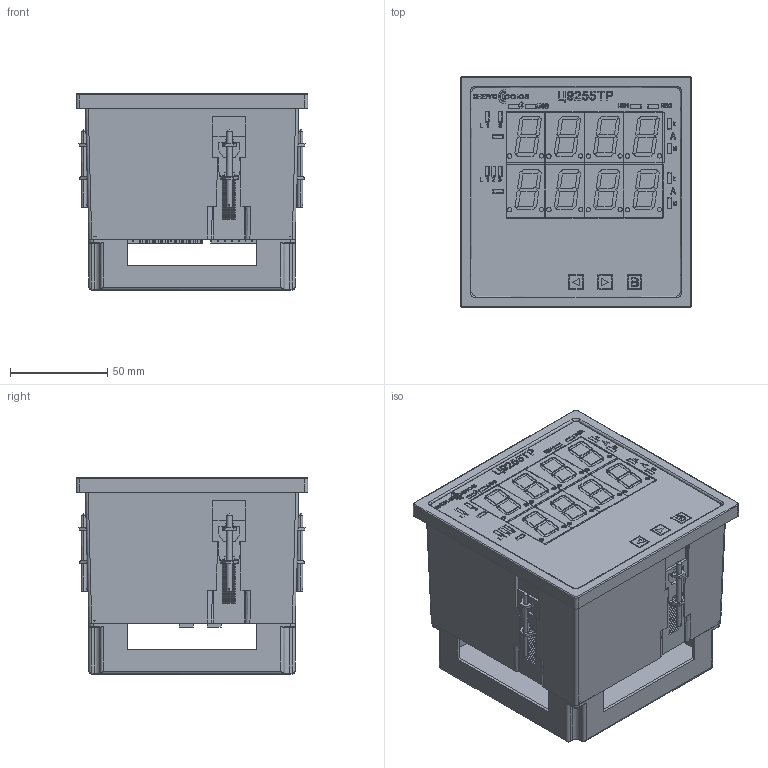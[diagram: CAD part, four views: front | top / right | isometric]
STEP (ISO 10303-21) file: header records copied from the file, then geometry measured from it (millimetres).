
FILE_DESCRIPTION (( 'STEP AP214' ), '1' );
FILE_NAME ('ñ9255tr_2c_120x120x103.STEP', '2025-10-20T08:02:41', ( '' ), ( '' ), 'SwSTEP 2.0', 'SolidWorks 2021', '' );
FILE_SCHEMA (( 'AUTOMOTIVE_DESIGN' ));
Length unit declared in the file: millimetre
Products named in the file (60): Êîïèÿ 15EDGRC-3.5-01P^15EDGRC-3.5-04P; 櫻蠉錪6^DG271R-5.0-2-x; Êîïèÿ (4) Êîïèÿ indicator-FYS-8011^c9255tr-2c_step; Êîïèÿ Êîïèÿ (2) orange-led-with-border^c9255tr-2c_step; body_elc_120x120x103_step; red-led-with-border_step; Êîïèÿ (8) Êîïèÿ indicator-FYS-8011^c9255tr-2c_step; green-led-5_step; Êîïèÿ mark-FYS-8011^Êîïèÿ (4) Êîïèÿ indicator-FYS-8011_c9255tr-2c_step; Êîïèÿ (3) Êîïèÿ indicator-FYS-8011^c9255tr-2c_step; no-color-led-5; 櫻蠉錪5^DG271R-5.0-4-x_step; Êîïèÿ Êîïèÿ ïåðåäíÿÿ_ïàíåëü^c9255tr-2c_step; ñêîáà-2; Êîïèÿ no-color-led-5^c9255tr-2c; ñ9255tr_2c_120x120x103; Êîïèÿ (6) Êîïèÿ indicator-FYS-8011^c9255tr-2c_step; Êîïèÿ mark-FYS-8011^Êîïèÿ (3) Êîïèÿ indicator-FYS-8011_c9255tr-2c_step; Êîïèÿ Ñáîðêà ñêîáà ÖÔ9285^c9255tr-2c_step; 15EDGRC-3.5-04P; 櫻蠉錪6^DG271R-5.0-4-x_step; 櫻蠉錪2^DG271R-5.0-2-x; indicator-FYS-8011; Êîïèÿ 15EDGRC-3.5-01P^Êîïèÿ 15EDGRC-3.5-06P_c9255tr-2c; border_for_body_elc_120x120x103; Êîïèÿ mark-FYS-8011^Êîïèÿ (2) Êîïèÿ indicator-FYS-8011_c9255tr-2c_step; Êîïèÿ Êîïèÿ orange-led-with-border^c9255tr-2c_step; indicator-FYS-8011_step; Êîïèÿ 15EDGVC-3.5-sidewall^15EDGRC-3.5-04P; DG271R-body_step; DG271R-5.0-2-x; Êîïèÿ mark-FYS-8011^Êîïèÿ (5) Êîïèÿ indicator-FYS-8011_c9255tr-2c_step; RS-485-label^c9255tr-2c_step; Êîïèÿ mark-FYS-8011^Êîïèÿ (7) Êîïèÿ indicator-FYS-8011_c9255tr-2c_step; Âèíò äëÿ ñêîáû ÖÔ9285_step; Êîïèÿ 15EDGRC-3.5-06P^c9255tr-2c; main-upper-label^c9255tr-2c_step; DG271R-5.0-4-x_step; ñêîáà-1; 15EDGRC-3.5-01P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
Assembly tree (99 placements, depth 3):
  櫻蠉錪6^DG271R-5.0-2-x
  Êîïèÿ mark-FYS-8011^Êîïèÿ (4) Êîïèÿ indicator-FYS-8011_c9255tr-2c_step
  ñ9255tr_2c_120x120x103
    body_elc_120x120x103_step
    Êîïèÿ Êîïèÿ ïåðåäíÿÿ_ïàíåëü^c9255tr-2c_step
    border_for_body_elc_120x120x103
    Êîïèÿ Ñáîðêà ñêîáà ÖÔ9285^c9255tr-2c_step  x4
      Ñêîáà ÖÔ9285
      Âèíò äëÿ ñêîáû ÖÔ9285_step
    Çàäíÿÿ êðûøêà ÖÔ9285
    Êîïèÿ no-color-led-5^c9255tr-2c  x5
    blue-led-5_step
    green-led-5_step  x3
    Êîïèÿ Êîïèÿ orange-led-with-border^c9255tr-2c_step
    red-led-with-border_step
    no-color-led-5  x3
    Êîïèÿ Êîïèÿ (2) orange-led-with-border^c9255tr-2c_step
    Êîïèÿ Êîïèÿ indicator-FYS-8011^c9255tr-2c_step
      indicator-FYS-8011_step
    Êîïèÿ (2) Êîïèÿ indicator-FYS-8011^c9255tr-2c_step
      indicator-FYS-8011_step
    Êîïèÿ (3) Êîïèÿ indicator-FYS-8011^c9255tr-2c_step
      indicator-FYS-8011_step
    Êîïèÿ (4) Êîïèÿ indicator-FYS-8011^c9255tr-2c_step
      indicator-FYS-8011
    Êîïèÿ (5) Êîïèÿ indicator-FYS-8011^c9255tr-2c_step
      indicator-FYS-8011
    Êîïèÿ (6) Êîïèÿ indicator-FYS-8011^c9255tr-2c_step
      indicator-FYS-8011
    Êîïèÿ (7) Êîïèÿ indicator-FYS-8011^c9255tr-2c_step
      indicator-FYS-8011_step
    Êîïèÿ (8) Êîïèÿ indicator-FYS-8011^c9255tr-2c_step
      indicator-FYS-8011_step
    15EDGRC-3.5-04P  x2
      Êîïèÿ 15EDGRC-3.5-01P^15EDGRC-3.5-04P
      Êîïèÿ 15EDGVC-3.5-sidewall^15EDGRC-3.5-04P
    Êîïèÿ 15EDGRC-3.5-06P^c9255tr-2c  x2
      Êîïèÿ 15EDGRC-3.5-01P^Êîïèÿ 15EDGRC-3.5-06P_c9255tr-2c
      Êîïèÿ 15EDGVC-3.5-sidewall^Êîïèÿ 15EDGRC-3.5-06P_c9255tr-2c
    15EDGRC-3.5-06P
      15EDGRC-3.5-01P  x6
      15EDGVC-3.5-sidewall  x2
    DG271R-5.0-4-x_step
      DG271R-body_step  x4
      ñêîáà-1_step  x4
      ñêîáà-2_step
      櫻蠉錪5^DG271R-5.0-4-x_step  x4
      櫻蠉錪2^DG271R-5.0-4-x
    DG271R-5.0-2-x
      DG271R-body  x2
      ñêîáà-1  x2
      ñêîáà-2
      櫻蠉錪5^DG271R-5.0-2-x  x2
      櫻蠉錪2^DG271R-5.0-2-x
    RS-485-label^c9255tr-2c_step
    3-input-label^c9255tr-2c_step
    main-upper-label^c9255tr-2c_step
    User Library-Micro USB_typeB_10118192-0001LF FCI
  Êîïèÿ mark-FYS-8011^Êîïèÿ (3) Êîïèÿ indicator-FYS-8011_c9255tr-2c_step
  櫻蠉錪6^DG271R-5.0-4-x_step
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Bounding box: 119 x 119 x 100.8 mm (x, y, z)
Volume: 181128.5 mm3; surface area: 220148.1 mm2
Topology: 264 solids, 264 shells, 8701 faces, 22375 edges, 14474 vertices
Faces by surface type: plane 5870, cylinder 1709, bspline 934, cone 128, sphere 48, torus 12
Entity records: 228686 total; most frequent: CARTESIAN_POINT 83676, ORIENTED_EDGE 26692, DIRECTION 20428, EDGE_CURVE 13346, VECTOR 9156, LINE 9156, VERTEX_POINT 8724, AXIS2_PLACEMENT_3D 5636
